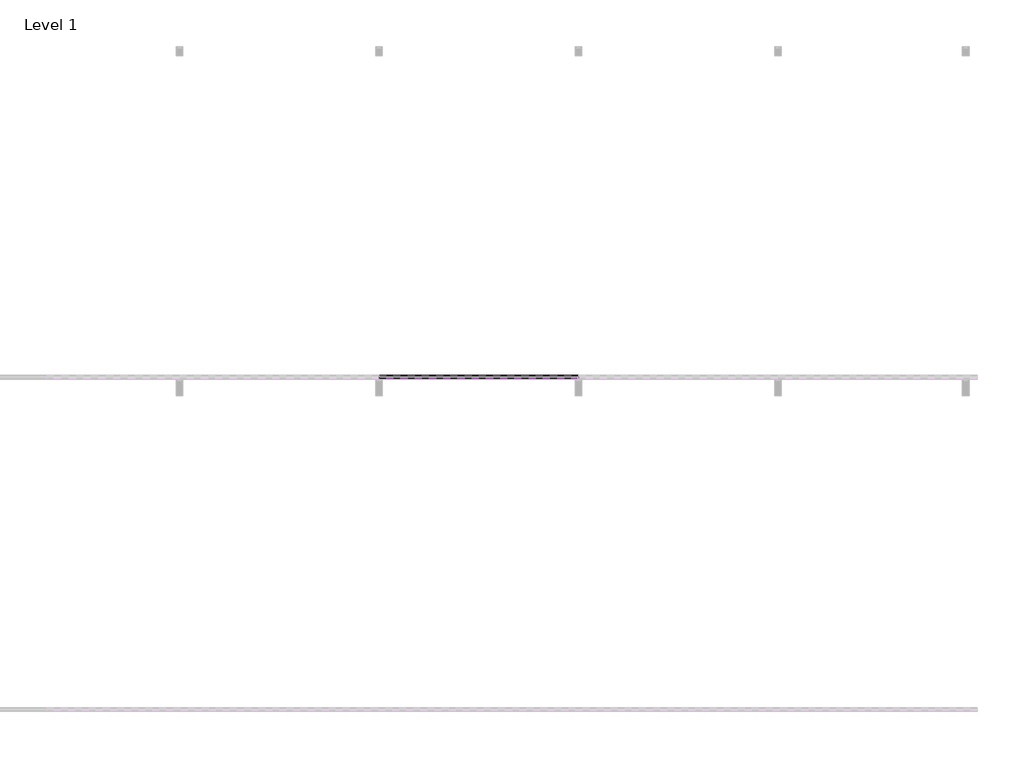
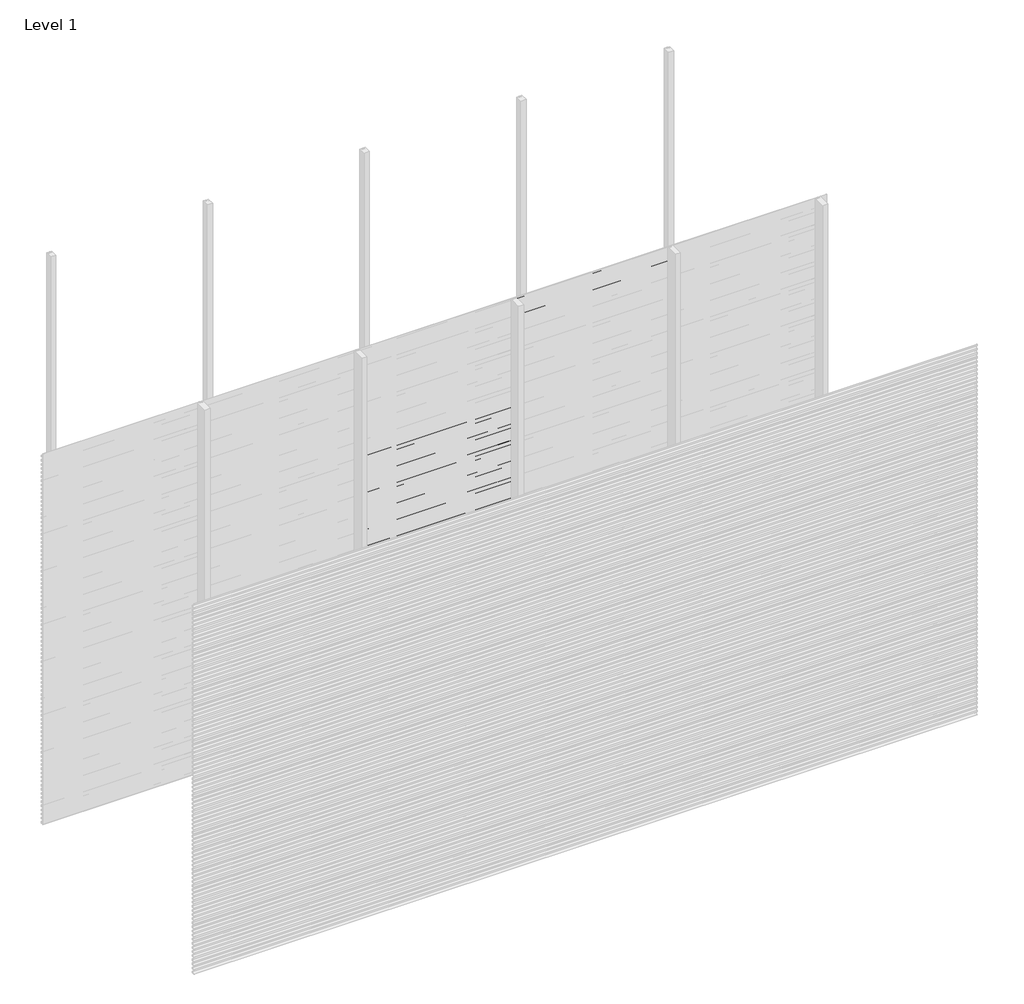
# One storey, part 30 of 77: 72 proxies.
"""IFC4 building model written with IfcOpenShell, lengths in millimetres."""

from ifc_helpers import new_model, si_unit, frame, origin, place, context, project, spatial, polyline, outline, extrude, element, save

model = new_model("IFC4")

# Units and contexts
model_context = context("Model", 3, world=origin())
ifc_project = project(units=[si_unit("LENGTHUNIT", "METRE", prefix="MILLI")], contexts=[model_context])

# Site, building, storey
site = spatial("IfcSite", under=ifc_project)
building = spatial("IfcBuilding", under=site)
storey = spatial("IfcBuildingStorey", under=building, Name="Level 1", Elevation=0.0)

# Proxies
placement = place(None, origin())
element("IfcBuildingElementProxy", 1, Name="Wall Sweeps", at=placement, inside=storey, context=model_context, shape_type="SweptSolid", body=[
    extrude(outline(polyline([(-35978.6, 2206.6359887), (-35998.0, 2217.8366691), (-35998.0, 2231.1), (-35997.0, 2231.1), (-35997.0, 2218.4191057), (-35977.6, 2207.2185105), (-35977.6, 2193.6185105), (-35978.6, 2195.1953129), (-35978.6, 2201.0032062), (-35995.9773817, 2192.9), (-35996.4, 2193.8063078), (-35978.6, 2202.1065841), (-35978.6, 2206.6359887)])), frame((2400.0, 0.0, 0.0), z_axis=(1.0, 0.0, 0.0), x_axis=(0.0, 1.0, 0.0)), (0.0, 0.0, 1.0), 1200.0),
])
element("IfcBuildingElementProxy", 2, Name="Wall Sweeps", at=placement, inside=storey, context=model_context, shape_type="SweptSolid", body=[
    extrude(outline(polyline([(-35978.6, 2173.3359887), (-35998.0, 2184.5366691), (-35998.0, 2197.8), (-35997.0, 2197.8), (-35997.0, 2185.1191057), (-35977.6, 2173.9185105), (-35977.6, 2160.3185105), (-35978.6, 2161.8953129), (-35978.6, 2167.7032062), (-35995.9773817, 2159.6), (-35996.4, 2160.5063078), (-35978.6, 2168.8065841), (-35978.6, 2173.3359887)])), frame((2400.0, 0.0, 0.0), z_axis=(1.0, 0.0, 0.0), x_axis=(0.0, 1.0, 0.0)), (0.0, 0.0, 1.0), 1200.0),
])
element("IfcBuildingElementProxy", 3, Name="Wall Sweeps", at=placement, inside=storey, context=model_context, shape_type="SweptSolid", body=[
    extrude(outline(polyline([(-35978.6, 2140.0359887), (-35998.0, 2151.2366691), (-35998.0, 2164.5), (-35997.0, 2164.5), (-35997.0, 2151.8191057), (-35977.6, 2140.6185105), (-35977.6, 2127.0185105), (-35978.6, 2128.5953129), (-35978.6, 2134.4032062), (-35995.9773817, 2126.3), (-35996.4, 2127.2063078), (-35978.6, 2135.5065841), (-35978.6, 2140.0359887)])), frame((2400.0, 0.0, 0.0), z_axis=(1.0, 0.0, 0.0), x_axis=(0.0, 1.0, 0.0)), (0.0, 0.0, 1.0), 1200.0),
])
element("IfcBuildingElementProxy", 4, Name="Wall Sweeps", at=placement, inside=storey, context=model_context, shape_type="SweptSolid", body=[
    extrude(outline(polyline([(-35978.6, 2106.7359887), (-35998.0, 2117.9366691), (-35998.0, 2131.2), (-35997.0, 2131.2), (-35997.0, 2118.5191057), (-35977.6, 2107.3185105), (-35977.6, 2093.7185105), (-35978.6, 2095.2953129), (-35978.6, 2101.1032062), (-35995.9773817, 2093.0), (-35996.4, 2093.9063078), (-35978.6, 2102.2065841), (-35978.6, 2106.7359887)])), frame((2400.0, 0.0, 0.0), z_axis=(1.0, 0.0, 0.0), x_axis=(0.0, 1.0, 0.0)), (0.0, 0.0, 1.0), 1200.0),
])
element("IfcBuildingElementProxy", 5, Name="Wall Sweeps", at=placement, inside=storey, context=model_context, shape_type="SweptSolid", body=[
    extrude(outline(polyline([(-35978.6, 2073.4359887), (-35998.0, 2084.6366691), (-35998.0, 2097.9), (-35997.0, 2097.9), (-35997.0, 2085.2191057), (-35977.6, 2074.0185105), (-35977.6, 2060.4185105), (-35978.6, 2061.9953129), (-35978.6, 2067.8032062), (-35995.9773817, 2059.7), (-35996.4, 2060.6063078), (-35978.6, 2068.9065841), (-35978.6, 2073.4359887)])), frame((2400.0, 0.0, 0.0), z_axis=(1.0, 0.0, 0.0), x_axis=(0.0, 1.0, 0.0)), (0.0, 0.0, 1.0), 1200.0),
])
element("IfcBuildingElementProxy", 6, Name="Wall Sweeps", at=placement, inside=storey, context=model_context, shape_type="SweptSolid", body=[
    extrude(outline(polyline([(-35978.6, 2040.1359887), (-35998.0, 2051.3366691), (-35998.0, 2064.6), (-35997.0, 2064.6), (-35997.0, 2051.9191057), (-35977.6, 2040.7185105), (-35977.6, 2027.1185105), (-35978.6, 2028.6953129), (-35978.6, 2034.5032062), (-35995.9773817, 2026.4), (-35996.4, 2027.3063078), (-35978.6, 2035.6065841), (-35978.6, 2040.1359887)])), frame((2400.0, 0.0, 0.0), z_axis=(1.0, 0.0, 0.0), x_axis=(0.0, 1.0, 0.0)), (0.0, 0.0, 1.0), 1200.0),
])
element("IfcBuildingElementProxy", 7, Name="Wall Sweeps", at=placement, inside=storey, context=model_context, shape_type="SweptSolid", body=[
    extrude(outline(polyline([(-35978.6, 2006.8359887), (-35998.0, 2018.0366691), (-35998.0, 2031.3), (-35997.0, 2031.3), (-35997.0, 2018.6191057), (-35977.6, 2007.4185105), (-35977.6, 1993.8185105), (-35978.6, 1995.3953129), (-35978.6, 2001.2032062), (-35995.9773817, 1993.1), (-35996.4, 1994.0063078), (-35978.6, 2002.3065841), (-35978.6, 2006.8359887)])), frame((2400.0, 0.0, 0.0), z_axis=(1.0, 0.0, 0.0), x_axis=(0.0, 1.0, 0.0)), (0.0, 0.0, 1.0), 1200.0),
])
element("IfcBuildingElementProxy", 8, Name="Wall Sweeps", at=placement, inside=storey, context=model_context, shape_type="SweptSolid", body=[
    extrude(outline(polyline([(-35978.6, 1973.5359887), (-35998.0, 1984.7366691), (-35998.0, 1998.0), (-35997.0, 1998.0), (-35997.0, 1985.3191057), (-35977.6, 1974.1185105), (-35977.6, 1960.5185105), (-35978.6, 1962.0953129), (-35978.6, 1967.9032062), (-35995.9773817, 1959.8), (-35996.4, 1960.7063078), (-35978.6, 1969.0065841), (-35978.6, 1973.5359887)])), frame((2400.0, 0.0, 0.0), z_axis=(1.0, 0.0, 0.0), x_axis=(0.0, 1.0, 0.0)), (0.0, 0.0, 1.0), 1200.0),
])
element("IfcBuildingElementProxy", 9, Name="Wall Sweeps", at=placement, inside=storey, context=model_context, shape_type="SweptSolid", body=[
    extrude(outline(polyline([(-35978.6, 1940.2359887), (-35998.0, 1951.4366691), (-35998.0, 1964.7), (-35997.0, 1964.7), (-35997.0, 1952.0191057), (-35977.6, 1940.8185105), (-35977.6, 1927.2185105), (-35978.6, 1928.7953129), (-35978.6, 1934.6032062), (-35995.9773817, 1926.5), (-35996.4, 1927.4063078), (-35978.6, 1935.7065841), (-35978.6, 1940.2359887)])), frame((2400.0, 0.0, 0.0), z_axis=(1.0, 0.0, 0.0), x_axis=(0.0, 1.0, 0.0)), (0.0, 0.0, 1.0), 1200.0),
])
element("IfcBuildingElementProxy", 10, Name="Wall Sweeps", at=placement, inside=storey, context=model_context, shape_type="SweptSolid", body=[
    extrude(outline(polyline([(-35978.6, 1906.9359887), (-35998.0, 1918.1366691), (-35998.0, 1931.4), (-35997.0, 1931.4), (-35997.0, 1918.7191057), (-35977.6, 1907.5185105), (-35977.6, 1893.9185105), (-35978.6, 1895.4953129), (-35978.6, 1901.3032062), (-35995.9773817, 1893.2), (-35996.4, 1894.1063078), (-35978.6, 1902.4065841), (-35978.6, 1906.9359887)])), frame((2400.0, 0.0, 0.0), z_axis=(1.0, 0.0, 0.0), x_axis=(0.0, 1.0, 0.0)), (0.0, 0.0, 1.0), 1200.0),
])
element("IfcBuildingElementProxy", 11, Name="Wall Sweeps", at=placement, inside=storey, context=model_context, shape_type="SweptSolid", body=[
    extrude(outline(polyline([(-35978.6, 1873.6359887), (-35998.0, 1884.8366691), (-35998.0, 1898.1), (-35997.0, 1898.1), (-35997.0, 1885.4191057), (-35977.6, 1874.2185105), (-35977.6, 1860.6185105), (-35978.6, 1862.1953129), (-35978.6, 1868.0032062), (-35995.9773817, 1859.9), (-35996.4, 1860.8063078), (-35978.6, 1869.1065841), (-35978.6, 1873.6359887)])), frame((2400.0, 0.0, 0.0), z_axis=(1.0, 0.0, 0.0), x_axis=(0.0, 1.0, 0.0)), (0.0, 0.0, 1.0), 1200.0),
])
element("IfcBuildingElementProxy", 12, Name="Wall Sweeps", at=placement, inside=storey, context=model_context, shape_type="SweptSolid", body=[
    extrude(outline(polyline([(-35978.6, 1840.3359887), (-35998.0, 1851.5366691), (-35998.0, 1864.8), (-35997.0, 1864.8), (-35997.0, 1852.1191057), (-35977.6, 1840.9185105), (-35977.6, 1827.3185105), (-35978.6, 1828.8953129), (-35978.6, 1834.7032062), (-35995.9773817, 1826.6), (-35996.4, 1827.5063078), (-35978.6, 1835.8065841), (-35978.6, 1840.3359887)])), frame((2400.0, 0.0, 0.0), z_axis=(1.0, 0.0, 0.0), x_axis=(0.0, 1.0, 0.0)), (0.0, 0.0, 1.0), 1200.0),
])
element("IfcBuildingElementProxy", 13, Name="Wall Sweeps", at=placement, inside=storey, context=model_context, shape_type="SweptSolid", body=[
    extrude(outline(polyline([(-35978.6, 1807.0359887), (-35998.0, 1818.2366691), (-35998.0, 1831.5), (-35997.0, 1831.5), (-35997.0, 1818.8191057), (-35977.6, 1807.6185105), (-35977.6, 1794.0185105), (-35978.6, 1795.5953129), (-35978.6, 1801.4032062), (-35995.9773817, 1793.3), (-35996.4, 1794.2063078), (-35978.6, 1802.5065841), (-35978.6, 1807.0359887)])), frame((2400.0, 0.0, 0.0), z_axis=(1.0, 0.0, 0.0), x_axis=(0.0, 1.0, 0.0)), (0.0, 0.0, 1.0), 1200.0),
])
element("IfcBuildingElementProxy", 14, Name="Wall Sweeps", at=placement, inside=storey, context=model_context, shape_type="SweptSolid", body=[
    extrude(outline(polyline([(-35978.6, 1773.7359887), (-35998.0, 1784.9366691), (-35998.0, 1798.2), (-35997.0, 1798.2), (-35997.0, 1785.5191057), (-35977.6, 1774.3185105), (-35977.6, 1760.7185105), (-35978.6, 1762.2953129), (-35978.6, 1768.1032062), (-35995.9773817, 1760.0), (-35996.4, 1760.9063078), (-35978.6, 1769.2065841), (-35978.6, 1773.7359887)])), frame((2400.0, 0.0, 0.0), z_axis=(1.0, 0.0, 0.0), x_axis=(0.0, 1.0, 0.0)), (0.0, 0.0, 1.0), 1200.0),
])
element("IfcBuildingElementProxy", 15, Name="Wall Sweeps", at=placement, inside=storey, context=model_context, shape_type="SweptSolid", body=[
    extrude(outline(polyline([(-35978.6, 1740.4359887), (-35998.0, 1751.6366691), (-35998.0, 1764.9), (-35997.0, 1764.9), (-35997.0, 1752.2191057), (-35977.6, 1741.0185105), (-35977.6, 1727.4185105), (-35978.6, 1728.9953129), (-35978.6, 1734.8032062), (-35995.9773817, 1726.7), (-35996.4, 1727.6063078), (-35978.6, 1735.9065841), (-35978.6, 1740.4359887)])), frame((2400.0, 0.0, 0.0), z_axis=(1.0, 0.0, 0.0), x_axis=(0.0, 1.0, 0.0)), (0.0, 0.0, 1.0), 1200.0),
])
element("IfcBuildingElementProxy", 16, Name="Wall Sweeps", at=placement, inside=storey, context=model_context, shape_type="SweptSolid", body=[
    extrude(outline(polyline([(-35978.6, 1707.1359887), (-35998.0, 1718.3366691), (-35998.0, 1731.6), (-35997.0, 1731.6), (-35997.0, 1718.9191057), (-35977.6, 1707.7185105), (-35977.6, 1694.1185105), (-35978.6, 1695.6953129), (-35978.6, 1701.5032062), (-35995.9773817, 1693.4), (-35996.4, 1694.3063078), (-35978.6, 1702.6065841), (-35978.6, 1707.1359887)])), frame((2400.0, 0.0, 0.0), z_axis=(1.0, 0.0, 0.0), x_axis=(0.0, 1.0, 0.0)), (0.0, 0.0, 1.0), 1200.0),
])
element("IfcBuildingElementProxy", 17, Name="Wall Sweeps", at=placement, inside=storey, context=model_context, shape_type="SweptSolid", body=[
    extrude(outline(polyline([(-35978.6, 1673.8359887), (-35998.0, 1685.0366691), (-35998.0, 1698.3), (-35997.0, 1698.3), (-35997.0, 1685.6191057), (-35977.6, 1674.4185105), (-35977.6, 1660.8185105), (-35978.6, 1662.3953129), (-35978.6, 1668.2032062), (-35995.9773817, 1660.1), (-35996.4, 1661.0063078), (-35978.6, 1669.3065841), (-35978.6, 1673.8359887)])), frame((2400.0, 0.0, 0.0), z_axis=(1.0, 0.0, 0.0), x_axis=(0.0, 1.0, 0.0)), (0.0, 0.0, 1.0), 1200.0),
])
element("IfcBuildingElementProxy", 18, Name="Wall Sweeps", at=placement, inside=storey, context=model_context, shape_type="SweptSolid", body=[
    extrude(outline(polyline([(-35978.6, 1640.5359887), (-35998.0, 1651.7366691), (-35998.0, 1665.0), (-35997.0, 1665.0), (-35997.0, 1652.3191057), (-35977.6, 1641.1185105), (-35977.6, 1627.5185105), (-35978.6, 1629.0953129), (-35978.6, 1634.9032062), (-35995.9773817, 1626.8), (-35996.4, 1627.7063078), (-35978.6, 1636.0065841), (-35978.6, 1640.5359887)])), frame((2400.0, 0.0, 0.0), z_axis=(1.0, 0.0, 0.0), x_axis=(0.0, 1.0, 0.0)), (0.0, 0.0, 1.0), 1200.0),
])
element("IfcBuildingElementProxy", 19, Name="Wall Sweeps", at=placement, inside=storey, context=model_context, shape_type="SweptSolid", body=[
    extrude(outline(polyline([(-35978.6, 1607.2359887), (-35998.0, 1618.4366691), (-35998.0, 1631.7), (-35997.0, 1631.7), (-35997.0, 1619.0191057), (-35977.6, 1607.8185105), (-35977.6, 1594.2185105), (-35978.6, 1595.7953129), (-35978.6, 1601.6032062), (-35995.9773817, 1593.5), (-35996.4, 1594.4063078), (-35978.6, 1602.7065841), (-35978.6, 1607.2359887)])), frame((2400.0, 0.0, 0.0), z_axis=(1.0, 0.0, 0.0), x_axis=(0.0, 1.0, 0.0)), (0.0, 0.0, 1.0), 1200.0),
])
element("IfcBuildingElementProxy", 20, Name="Wall Sweeps", at=placement, inside=storey, context=model_context, shape_type="SweptSolid", body=[
    extrude(outline(polyline([(-35978.6, 1573.9359887), (-35998.0, 1585.1366691), (-35998.0, 1598.4), (-35997.0, 1598.4), (-35997.0, 1585.7191057), (-35977.6, 1574.5185105), (-35977.6, 1560.9185105), (-35978.6, 1562.4953129), (-35978.6, 1568.3032062), (-35995.9773817, 1560.2), (-35996.4, 1561.1063078), (-35978.6, 1569.4065841), (-35978.6, 1573.9359887)])), frame((2400.0, 0.0, 0.0), z_axis=(1.0, 0.0, 0.0), x_axis=(0.0, 1.0, 0.0)), (0.0, 0.0, 1.0), 1200.0),
])
element("IfcBuildingElementProxy", 21, Name="Wall Sweeps", at=placement, inside=storey, context=model_context, shape_type="SweptSolid", body=[
    extrude(outline(polyline([(-35978.6, 1540.6359887), (-35998.0, 1551.8366691), (-35998.0, 1565.1), (-35997.0, 1565.1), (-35997.0, 1552.4191057), (-35977.6, 1541.2185105), (-35977.6, 1527.6185105), (-35978.6, 1529.1953129), (-35978.6, 1535.0032062), (-35995.9773817, 1526.9), (-35996.4, 1527.8063078), (-35978.6, 1536.1065841), (-35978.6, 1540.6359887)])), frame((2400.0, 0.0, 0.0), z_axis=(1.0, 0.0, 0.0), x_axis=(0.0, 1.0, 0.0)), (0.0, 0.0, 1.0), 1200.0),
])
element("IfcBuildingElementProxy", 22, Name="Wall Sweeps", at=placement, inside=storey, context=model_context, shape_type="SweptSolid", body=[
    extrude(outline(polyline([(-35978.6, 1507.3359887), (-35998.0, 1518.5366691), (-35998.0, 1531.8), (-35997.0, 1531.8), (-35997.0, 1519.1191057), (-35977.6, 1507.9185105), (-35977.6, 1494.3185105), (-35978.6, 1495.8953129), (-35978.6, 1501.7032062), (-35995.9773817, 1493.6), (-35996.4, 1494.5063078), (-35978.6, 1502.8065841), (-35978.6, 1507.3359887)])), frame((2400.0, 0.0, 0.0), z_axis=(1.0, 0.0, 0.0), x_axis=(0.0, 1.0, 0.0)), (0.0, 0.0, 1.0), 1200.0),
])
element("IfcBuildingElementProxy", 23, Name="Wall Sweeps", at=placement, inside=storey, context=model_context, shape_type="SweptSolid", body=[
    extrude(outline(polyline([(-35978.6, 1474.0359887), (-35998.0, 1485.2366691), (-35998.0, 1498.5), (-35997.0, 1498.5), (-35997.0, 1485.8191057), (-35977.6, 1474.6185105), (-35977.6, 1461.0185105), (-35978.6, 1462.5953129), (-35978.6, 1468.4032062), (-35995.9773817, 1460.3), (-35996.4, 1461.2063078), (-35978.6, 1469.5065841), (-35978.6, 1474.0359887)])), frame((2400.0, 0.0, 0.0), z_axis=(1.0, 0.0, 0.0), x_axis=(0.0, 1.0, 0.0)), (0.0, 0.0, 1.0), 1200.0),
])
element("IfcBuildingElementProxy", 24, Name="Wall Sweeps", at=placement, inside=storey, context=model_context, shape_type="SweptSolid", body=[
    extrude(outline(polyline([(-35978.6, 1440.7359887), (-35998.0, 1451.9366691), (-35998.0, 1465.2), (-35997.0, 1465.2), (-35997.0, 1452.5191057), (-35977.6, 1441.3185105), (-35977.6, 1427.7185105), (-35978.6, 1429.2953129), (-35978.6, 1435.1032062), (-35995.9773817, 1427.0), (-35996.4, 1427.9063078), (-35978.6, 1436.2065841), (-35978.6, 1440.7359887)])), frame((2400.0, 0.0, 0.0), z_axis=(1.0, 0.0, 0.0), x_axis=(0.0, 1.0, 0.0)), (0.0, 0.0, 1.0), 1200.0),
])
element("IfcBuildingElementProxy", 25, Name="Wall Sweeps", at=placement, inside=storey, context=model_context, shape_type="SweptSolid", body=[
    extrude(outline(polyline([(-35978.6, 1407.4359887), (-35998.0, 1418.6366691), (-35998.0, 1431.9), (-35997.0, 1431.9), (-35997.0, 1419.2191057), (-35977.6, 1408.0185105), (-35977.6, 1394.4185105), (-35978.6, 1395.9953129), (-35978.6, 1401.8032062), (-35995.9773817, 1393.7), (-35996.4, 1394.6063078), (-35978.6, 1402.9065841), (-35978.6, 1407.4359887)])), frame((2400.0, 0.0, 0.0), z_axis=(1.0, 0.0, 0.0), x_axis=(0.0, 1.0, 0.0)), (0.0, 0.0, 1.0), 1200.0),
])
element("IfcBuildingElementProxy", 26, Name="Wall Sweeps", at=placement, inside=storey, context=model_context, shape_type="SweptSolid", body=[
    extrude(outline(polyline([(-35978.6, 1374.1359887), (-35998.0, 1385.3366691), (-35998.0, 1398.6), (-35997.0, 1398.6), (-35997.0, 1385.9191057), (-35977.6, 1374.7185105), (-35977.6, 1361.1185105), (-35978.6, 1362.6953129), (-35978.6, 1368.5032062), (-35995.9773817, 1360.4), (-35996.4, 1361.3063078), (-35978.6, 1369.6065841), (-35978.6, 1374.1359887)])), frame((2400.0, 0.0, 0.0), z_axis=(1.0, 0.0, 0.0), x_axis=(0.0, 1.0, 0.0)), (0.0, 0.0, 1.0), 1200.0),
])
element("IfcBuildingElementProxy", 27, Name="Wall Sweeps", at=placement, inside=storey, context=model_context, shape_type="SweptSolid", body=[
    extrude(outline(polyline([(-35978.6, 1340.8359887), (-35998.0, 1352.0366691), (-35998.0, 1365.3), (-35997.0, 1365.3), (-35997.0, 1352.6191057), (-35977.6, 1341.4185105), (-35977.6, 1327.8185105), (-35978.6, 1329.3953129), (-35978.6, 1335.2032062), (-35995.9773817, 1327.1), (-35996.4, 1328.0063078), (-35978.6, 1336.3065841), (-35978.6, 1340.8359887)])), frame((2400.0, 0.0, 0.0), z_axis=(1.0, 0.0, 0.0), x_axis=(0.0, 1.0, 0.0)), (0.0, 0.0, 1.0), 1200.0),
])
element("IfcBuildingElementProxy", 28, Name="Wall Sweeps", at=placement, inside=storey, context=model_context, shape_type="SweptSolid", body=[
    extrude(outline(polyline([(-35978.6, 1307.5359887), (-35998.0, 1318.7366691), (-35998.0, 1332.0), (-35997.0, 1332.0), (-35997.0, 1319.3191057), (-35977.6, 1308.1185105), (-35977.6, 1294.5185105), (-35978.6, 1296.0953129), (-35978.6, 1301.9032062), (-35995.9773817, 1293.8), (-35996.4, 1294.7063078), (-35978.6, 1303.0065841), (-35978.6, 1307.5359887)])), frame((2400.0, 0.0, 0.0), z_axis=(1.0, 0.0, 0.0), x_axis=(0.0, 1.0, 0.0)), (0.0, 0.0, 1.0), 1200.0),
])
element("IfcBuildingElementProxy", 29, Name="Wall Sweeps", at=placement, inside=storey, context=model_context, shape_type="SweptSolid", body=[
    extrude(outline(polyline([(-35978.6, 1274.2359887), (-35998.0, 1285.4366691), (-35998.0, 1298.7), (-35997.0, 1298.7), (-35997.0, 1286.0191057), (-35977.6, 1274.8185105), (-35977.6, 1261.2185105), (-35978.6, 1262.7953129), (-35978.6, 1268.6032062), (-35995.9773817, 1260.5), (-35996.4, 1261.4063078), (-35978.6, 1269.7065841), (-35978.6, 1274.2359887)])), frame((2400.0, 0.0, 0.0), z_axis=(1.0, 0.0, 0.0), x_axis=(0.0, 1.0, 0.0)), (0.0, 0.0, 1.0), 1200.0),
])
element("IfcBuildingElementProxy", 30, Name="Wall Sweeps", at=placement, inside=storey, context=model_context, shape_type="SweptSolid", body=[
    extrude(outline(polyline([(-35978.6, 1240.9359887), (-35998.0, 1252.1366691), (-35998.0, 1265.4), (-35997.0, 1265.4), (-35997.0, 1252.7191057), (-35977.6, 1241.5185105), (-35977.6, 1227.9185105), (-35978.6, 1229.4953129), (-35978.6, 1235.3032062), (-35995.9773817, 1227.2), (-35996.4, 1228.1063078), (-35978.6, 1236.4065841), (-35978.6, 1240.9359887)])), frame((2400.0, 0.0, 0.0), z_axis=(1.0, 0.0, 0.0), x_axis=(0.0, 1.0, 0.0)), (0.0, 0.0, 1.0), 1200.0),
])
element("IfcBuildingElementProxy", 31, Name="Wall Sweeps", at=placement, inside=storey, context=model_context, shape_type="SweptSolid", body=[
    extrude(outline(polyline([(-35978.6, 1207.6359887), (-35998.0, 1218.8366691), (-35998.0, 1232.1), (-35997.0, 1232.1), (-35997.0, 1219.4191057), (-35977.6, 1208.2185105), (-35977.6, 1194.6185105), (-35978.6, 1196.1953129), (-35978.6, 1202.0032062), (-35995.9773817, 1193.9), (-35996.4, 1194.8063078), (-35978.6, 1203.1065841), (-35978.6, 1207.6359887)])), frame((2400.0, 0.0, 0.0), z_axis=(1.0, 0.0, 0.0), x_axis=(0.0, 1.0, 0.0)), (0.0, 0.0, 1.0), 1200.0),
])
element("IfcBuildingElementProxy", 32, Name="Wall Sweeps", at=placement, inside=storey, context=model_context, shape_type="SweptSolid", body=[
    extrude(outline(polyline([(-35978.6, 1174.3359887), (-35998.0, 1185.5366691), (-35998.0, 1198.8), (-35997.0, 1198.8), (-35997.0, 1186.1191057), (-35977.6, 1174.9185105), (-35977.6, 1161.3185105), (-35978.6, 1162.8953129), (-35978.6, 1168.7032062), (-35995.9773817, 1160.6), (-35996.4, 1161.5063078), (-35978.6, 1169.8065841), (-35978.6, 1174.3359887)])), frame((2400.0, 0.0, 0.0), z_axis=(1.0, 0.0, 0.0), x_axis=(0.0, 1.0, 0.0)), (0.0, 0.0, 1.0), 1200.0),
])
element("IfcBuildingElementProxy", 33, Name="Wall Sweeps", at=placement, inside=storey, context=model_context, shape_type="SweptSolid", body=[
    extrude(outline(polyline([(-35978.6, 1141.0359887), (-35998.0, 1152.2366691), (-35998.0, 1165.5), (-35997.0, 1165.5), (-35997.0, 1152.8191057), (-35977.6, 1141.6185105), (-35977.6, 1128.0185105), (-35978.6, 1129.5953129), (-35978.6, 1135.4032062), (-35995.9773817, 1127.3), (-35996.4, 1128.2063078), (-35978.6, 1136.5065841), (-35978.6, 1141.0359887)])), frame((2400.0, 0.0, 0.0), z_axis=(1.0, 0.0, 0.0), x_axis=(0.0, 1.0, 0.0)), (0.0, 0.0, 1.0), 1200.0),
])
element("IfcBuildingElementProxy", 34, Name="Wall Sweeps", at=placement, inside=storey, context=model_context, shape_type="SweptSolid", body=[
    extrude(outline(polyline([(-35978.6, 1107.7359887), (-35998.0, 1118.9366691), (-35998.0, 1132.2), (-35997.0, 1132.2), (-35997.0, 1119.5191057), (-35977.6, 1108.3185105), (-35977.6, 1094.7185105), (-35978.6, 1096.2953129), (-35978.6, 1102.1032062), (-35995.9773817, 1094.0), (-35996.4, 1094.9063078), (-35978.6, 1103.2065841), (-35978.6, 1107.7359887)])), frame((2400.0, 0.0, 0.0), z_axis=(1.0, 0.0, 0.0), x_axis=(0.0, 1.0, 0.0)), (0.0, 0.0, 1.0), 1200.0),
])
element("IfcBuildingElementProxy", 35, Name="Wall Sweeps", at=placement, inside=storey, context=model_context, shape_type="SweptSolid", body=[
    extrude(outline(polyline([(-35978.6, 1074.4359887), (-35998.0, 1085.6366691), (-35998.0, 1098.9), (-35997.0, 1098.9), (-35997.0, 1086.2191057), (-35977.6, 1075.0185105), (-35977.6, 1061.4185105), (-35978.6, 1062.9953129), (-35978.6, 1068.8032062), (-35995.9773817, 1060.7), (-35996.4, 1061.6063078), (-35978.6, 1069.9065841), (-35978.6, 1074.4359887)])), frame((2400.0, 0.0, 0.0), z_axis=(1.0, 0.0, 0.0), x_axis=(0.0, 1.0, 0.0)), (0.0, 0.0, 1.0), 1200.0),
])
element("IfcBuildingElementProxy", 36, Name="Wall Sweeps", at=placement, inside=storey, context=model_context, shape_type="SweptSolid", body=[
    extrude(outline(polyline([(-35978.6, 1041.1359887), (-35998.0, 1052.3366691), (-35998.0, 1065.6), (-35997.0, 1065.6), (-35997.0, 1052.9191057), (-35977.6, 1041.7185105), (-35977.6, 1028.1185105), (-35978.6, 1029.6953129), (-35978.6, 1035.5032062), (-35995.9773817, 1027.4), (-35996.4, 1028.3063078), (-35978.6, 1036.6065841), (-35978.6, 1041.1359887)])), frame((2400.0, 0.0, 0.0), z_axis=(1.0, 0.0, 0.0), x_axis=(0.0, 1.0, 0.0)), (0.0, 0.0, 1.0), 1200.0),
])
element("IfcBuildingElementProxy", 37, Name="Wall Sweeps", at=placement, inside=storey, context=model_context, shape_type="SweptSolid", body=[
    extrude(outline(polyline([(-35978.6, 1007.8359887), (-35998.0, 1019.0366691), (-35998.0, 1032.3), (-35997.0, 1032.3), (-35997.0, 1019.6191057), (-35977.6, 1008.4185105), (-35977.6, 994.8185105), (-35978.6, 996.3953129), (-35978.6, 1002.2032062), (-35995.9773817, 994.1), (-35996.4, 995.0063078), (-35978.6, 1003.3065841), (-35978.6, 1007.8359887)])), frame((2400.0, 0.0, 0.0), z_axis=(1.0, 0.0, 0.0), x_axis=(0.0, 1.0, 0.0)), (0.0, 0.0, 1.0), 1200.0),
])
element("IfcBuildingElementProxy", 38, Name="Wall Sweeps", at=placement, inside=storey, context=model_context, shape_type="SweptSolid", body=[
    extrude(outline(polyline([(-35978.6, 974.5359887), (-35998.0, 985.7366691), (-35998.0, 999.0), (-35997.0, 999.0), (-35997.0, 986.3191057), (-35977.6, 975.1185105), (-35977.6, 961.5185105), (-35978.6, 963.0953129), (-35978.6, 968.9032062), (-35995.9773817, 960.8), (-35996.4, 961.7063078), (-35978.6, 970.0065841), (-35978.6, 974.5359887)])), frame((2400.0, 0.0, 0.0), z_axis=(1.0, 0.0, 0.0), x_axis=(0.0, 1.0, 0.0)), (0.0, 0.0, 1.0), 1200.0),
])
element("IfcBuildingElementProxy", 39, Name="Wall Sweeps", at=placement, inside=storey, context=model_context, shape_type="SweptSolid", body=[
    extrude(outline(polyline([(-35978.6, 941.2359887), (-35998.0, 952.4366691), (-35998.0, 965.7), (-35997.0, 965.7), (-35997.0, 953.0191057), (-35977.6, 941.8185105), (-35977.6, 928.2185105), (-35978.6, 929.7953129), (-35978.6, 935.6032062), (-35995.9773817, 927.5), (-35996.4, 928.4063078), (-35978.6, 936.7065841), (-35978.6, 941.2359887)])), frame((2400.0, 0.0, 0.0), z_axis=(1.0, 0.0, 0.0), x_axis=(0.0, 1.0, 0.0)), (0.0, 0.0, 1.0), 1200.0),
])
element("IfcBuildingElementProxy", 40, Name="Wall Sweeps", at=placement, inside=storey, context=model_context, shape_type="SweptSolid", body=[
    extrude(outline(polyline([(-35978.6, 907.9359887), (-35998.0, 919.1366691), (-35998.0, 932.4), (-35997.0, 932.4), (-35997.0, 919.7191057), (-35977.6, 908.5185105), (-35977.6, 894.9185105), (-35978.6, 896.4953129), (-35978.6, 902.3032062), (-35995.9773817, 894.2), (-35996.4, 895.1063078), (-35978.6, 903.4065841), (-35978.6, 907.9359887)])), frame((2400.0, 0.0, 0.0), z_axis=(1.0, 0.0, 0.0), x_axis=(0.0, 1.0, 0.0)), (0.0, 0.0, 1.0), 1200.0),
])
element("IfcBuildingElementProxy", 41, Name="Wall Sweeps", at=placement, inside=storey, context=model_context, shape_type="SweptSolid", body=[
    extrude(outline(polyline([(-35978.6, 874.6359887), (-35998.0, 885.8366691), (-35998.0, 899.1), (-35997.0, 899.1), (-35997.0, 886.4191057), (-35977.6, 875.2185105), (-35977.6, 861.6185105), (-35978.6, 863.1953129), (-35978.6, 869.0032062), (-35995.9773817, 860.9), (-35996.4, 861.8063078), (-35978.6, 870.1065841), (-35978.6, 874.6359887)])), frame((2400.0, 0.0, 0.0), z_axis=(1.0, 0.0, 0.0), x_axis=(0.0, 1.0, 0.0)), (0.0, 0.0, 1.0), 1200.0),
])
element("IfcBuildingElementProxy", 42, Name="Wall Sweeps", at=placement, inside=storey, context=model_context, shape_type="SweptSolid", body=[
    extrude(outline(polyline([(-35978.6, 841.3359887), (-35998.0, 852.5366691), (-35998.0, 865.8), (-35997.0, 865.8), (-35997.0, 853.1191057), (-35977.6, 841.9185105), (-35977.6, 828.3185105), (-35978.6, 829.8953129), (-35978.6, 835.7032062), (-35995.9773817, 827.6), (-35996.4, 828.5063078), (-35978.6, 836.8065841), (-35978.6, 841.3359887)])), frame((2400.0, 0.0, 0.0), z_axis=(1.0, 0.0, 0.0), x_axis=(0.0, 1.0, 0.0)), (0.0, 0.0, 1.0), 1200.0),
])
element("IfcBuildingElementProxy", 43, Name="Wall Sweeps", at=placement, inside=storey, context=model_context, shape_type="SweptSolid", body=[
    extrude(outline(polyline([(-35978.6, 808.0359887), (-35998.0, 819.2366691), (-35998.0, 832.5), (-35997.0, 832.5), (-35997.0, 819.8191057), (-35977.6, 808.6185105), (-35977.6, 795.0185105), (-35978.6, 796.5953129), (-35978.6, 802.4032062), (-35995.9773817, 794.3), (-35996.4, 795.2063078), (-35978.6, 803.5065841), (-35978.6, 808.0359887)])), frame((2400.0, 0.0, 0.0), z_axis=(1.0, 0.0, 0.0), x_axis=(0.0, 1.0, 0.0)), (0.0, 0.0, 1.0), 1200.0),
])
element("IfcBuildingElementProxy", 44, Name="Wall Sweeps", at=placement, inside=storey, context=model_context, shape_type="SweptSolid", body=[
    extrude(outline(polyline([(-35978.6, 774.7359887), (-35998.0, 785.9366691), (-35998.0, 799.2), (-35997.0, 799.2), (-35997.0, 786.5191057), (-35977.6, 775.3185105), (-35977.6, 761.7185105), (-35978.6, 763.2953129), (-35978.6, 769.1032062), (-35995.9773817, 761.0), (-35996.4, 761.9063078), (-35978.6, 770.2065841), (-35978.6, 774.7359887)])), frame((2400.0, 0.0, 0.0), z_axis=(1.0, 0.0, 0.0), x_axis=(0.0, 1.0, 0.0)), (0.0, 0.0, 1.0), 1200.0),
])
element("IfcBuildingElementProxy", 45, Name="Wall Sweeps", at=placement, inside=storey, context=model_context, shape_type="SweptSolid", body=[
    extrude(outline(polyline([(-35978.6, 741.4359887), (-35998.0, 752.6366691), (-35998.0, 765.9), (-35997.0, 765.9), (-35997.0, 753.2191057), (-35977.6, 742.0185105), (-35977.6, 728.4185105), (-35978.6, 729.9953129), (-35978.6, 735.8032062), (-35995.9773817, 727.7), (-35996.4, 728.6063078), (-35978.6, 736.9065841), (-35978.6, 741.4359887)])), frame((2400.0, 0.0, 0.0), z_axis=(1.0, 0.0, 0.0), x_axis=(0.0, 1.0, 0.0)), (0.0, 0.0, 1.0), 1200.0),
])
element("IfcBuildingElementProxy", 46, Name="Wall Sweeps", at=placement, inside=storey, context=model_context, shape_type="SweptSolid", body=[
    extrude(outline(polyline([(-35978.6, 708.1359887), (-35998.0, 719.3366691), (-35998.0, 732.6), (-35997.0, 732.6), (-35997.0, 719.9191057), (-35977.6, 708.7185105), (-35977.6, 695.1185105), (-35978.6, 696.6953129), (-35978.6, 702.5032062), (-35995.9773817, 694.4), (-35996.4, 695.3063078), (-35978.6, 703.6065841), (-35978.6, 708.1359887)])), frame((2400.0, 0.0, 0.0), z_axis=(1.0, 0.0, 0.0), x_axis=(0.0, 1.0, 0.0)), (0.0, 0.0, 1.0), 1200.0),
])
element("IfcBuildingElementProxy", 47, Name="Wall Sweeps", at=placement, inside=storey, context=model_context, shape_type="SweptSolid", body=[
    extrude(outline(polyline([(-35978.6, 674.8359887), (-35998.0, 686.0366691), (-35998.0, 699.3), (-35997.0, 699.3), (-35997.0, 686.6191057), (-35977.6, 675.4185105), (-35977.6, 661.8185105), (-35978.6, 663.3953129), (-35978.6, 669.2032062), (-35995.9773817, 661.1), (-35996.4, 662.0063078), (-35978.6, 670.3065841), (-35978.6, 674.8359887)])), frame((2400.0, 0.0, 0.0), z_axis=(1.0, 0.0, 0.0), x_axis=(0.0, 1.0, 0.0)), (0.0, 0.0, 1.0), 1200.0),
])
element("IfcBuildingElementProxy", 48, Name="Wall Sweeps", at=placement, inside=storey, context=model_context, shape_type="SweptSolid", body=[
    extrude(outline(polyline([(-35978.6, 641.5359887), (-35998.0, 652.7366691), (-35998.0, 666.0), (-35997.0, 666.0), (-35997.0, 653.3191057), (-35977.6, 642.1185105), (-35977.6, 628.5185105), (-35978.6, 630.0953129), (-35978.6, 635.9032062), (-35995.9773817, 627.8), (-35996.4, 628.7063078), (-35978.6, 637.0065841), (-35978.6, 641.5359887)])), frame((2400.0, 0.0, 0.0), z_axis=(1.0, 0.0, 0.0), x_axis=(0.0, 1.0, 0.0)), (0.0, 0.0, 1.0), 1200.0),
])
element("IfcBuildingElementProxy", 49, Name="Wall Sweeps", at=placement, inside=storey, context=model_context, shape_type="SweptSolid", body=[
    extrude(outline(polyline([(-35978.6, 608.2359887), (-35998.0, 619.4366691), (-35998.0, 632.7), (-35997.0, 632.7), (-35997.0, 620.0191057), (-35977.6, 608.8185105), (-35977.6, 595.2185105), (-35978.6, 596.7953129), (-35978.6, 602.6032062), (-35995.9773817, 594.5), (-35996.4, 595.4063078), (-35978.6, 603.7065841), (-35978.6, 608.2359887)])), frame((2400.0, 0.0, 0.0), z_axis=(1.0, 0.0, 0.0), x_axis=(0.0, 1.0, 0.0)), (0.0, 0.0, 1.0), 1200.0),
])
element("IfcBuildingElementProxy", 50, Name="Wall Sweeps", at=placement, inside=storey, context=model_context, shape_type="SweptSolid", body=[
    extrude(outline(polyline([(-35978.6, 574.9359887), (-35998.0, 586.1366691), (-35998.0, 599.4), (-35997.0, 599.4), (-35997.0, 586.7191057), (-35977.6, 575.5185105), (-35977.6, 561.9185105), (-35978.6, 563.4953129), (-35978.6, 569.3032062), (-35995.9773817, 561.2), (-35996.4, 562.1063078), (-35978.6, 570.4065841), (-35978.6, 574.9359887)])), frame((2400.0, 0.0, 0.0), z_axis=(1.0, 0.0, 0.0), x_axis=(0.0, 1.0, 0.0)), (0.0, 0.0, 1.0), 1200.0),
])
element("IfcBuildingElementProxy", 51, Name="Wall Sweeps", at=placement, inside=storey, context=model_context, shape_type="SweptSolid", body=[
    extrude(outline(polyline([(-35978.6, 541.6359887), (-35998.0, 552.8366691), (-35998.0, 566.1), (-35997.0, 566.1), (-35997.0, 553.4191057), (-35977.6, 542.2185105), (-35977.6, 528.6185105), (-35978.6, 530.1953129), (-35978.6, 536.0032062), (-35995.9773817, 527.9), (-35996.4, 528.8063078), (-35978.6, 537.1065841), (-35978.6, 541.6359887)])), frame((2400.0, 0.0, 0.0), z_axis=(1.0, 0.0, 0.0), x_axis=(0.0, 1.0, 0.0)), (0.0, 0.0, 1.0), 1200.0),
])
element("IfcBuildingElementProxy", 52, Name="Wall Sweeps", at=placement, inside=storey, context=model_context, shape_type="SweptSolid", body=[
    extrude(outline(polyline([(-35978.6, 508.3359887), (-35998.0, 519.5366691), (-35998.0, 532.8), (-35997.0, 532.8), (-35997.0, 520.1191057), (-35977.6, 508.9185105), (-35977.6, 495.3185105), (-35978.6, 496.8953129), (-35978.6, 502.7032062), (-35995.9773817, 494.6), (-35996.4, 495.5063078), (-35978.6, 503.8065841), (-35978.6, 508.3359887)])), frame((2400.0, 0.0, 0.0), z_axis=(1.0, 0.0, 0.0), x_axis=(0.0, 1.0, 0.0)), (0.0, 0.0, 1.0), 1200.0),
])
element("IfcBuildingElementProxy", 53, Name="Wall Sweeps", at=placement, inside=storey, context=model_context, shape_type="SweptSolid", body=[
    extrude(outline(polyline([(-35978.6, 475.0359887), (-35998.0, 486.2366691), (-35998.0, 499.5), (-35997.0, 499.5), (-35997.0, 486.8191057), (-35977.6, 475.6185105), (-35977.6, 462.0185105), (-35978.6, 463.5953129), (-35978.6, 469.4032062), (-35995.9773817, 461.3), (-35996.4, 462.2063078), (-35978.6, 470.5065841), (-35978.6, 475.0359887)])), frame((2400.0, 0.0, 0.0), z_axis=(1.0, 0.0, 0.0), x_axis=(0.0, 1.0, 0.0)), (0.0, 0.0, 1.0), 1200.0),
])
element("IfcBuildingElementProxy", 54, Name="Wall Sweeps", at=placement, inside=storey, context=model_context, shape_type="SweptSolid", body=[
    extrude(outline(polyline([(-35978.6, 441.7359887), (-35998.0, 452.9366691), (-35998.0, 466.2), (-35997.0, 466.2), (-35997.0, 453.5191057), (-35977.6, 442.3185105), (-35977.6, 428.7185105), (-35978.6, 430.2953129), (-35978.6, 436.1032062), (-35995.9773817, 428.0), (-35996.4, 428.9063078), (-35978.6, 437.2065841), (-35978.6, 441.7359887)])), frame((2400.0, 0.0, 0.0), z_axis=(1.0, 0.0, 0.0), x_axis=(0.0, 1.0, 0.0)), (0.0, 0.0, 1.0), 1200.0),
])
element("IfcBuildingElementProxy", 55, Name="Wall Sweeps", at=placement, inside=storey, context=model_context, shape_type="SweptSolid", body=[
    extrude(outline(polyline([(-35978.6, 408.4359887), (-35998.0, 419.6366691), (-35998.0, 432.9), (-35997.0, 432.9), (-35997.0, 420.2191057), (-35977.6, 409.0185105), (-35977.6, 395.4185105), (-35978.6, 396.9953129), (-35978.6, 402.8032062), (-35995.9773817, 394.7), (-35996.4, 395.6063078), (-35978.6, 403.9065841), (-35978.6, 408.4359887)])), frame((2400.0, 0.0, 0.0), z_axis=(1.0, 0.0, 0.0), x_axis=(0.0, 1.0, 0.0)), (0.0, 0.0, 1.0), 1200.0),
])
element("IfcBuildingElementProxy", 56, Name="Wall Sweeps", at=placement, inside=storey, context=model_context, shape_type="SweptSolid", body=[
    extrude(outline(polyline([(-35978.6, 375.1359887), (-35998.0, 386.3366691), (-35998.0, 399.6), (-35997.0, 399.6), (-35997.0, 386.9191057), (-35977.6, 375.7185105), (-35977.6, 362.1185105), (-35978.6, 363.6953129), (-35978.6, 369.5032062), (-35995.9773817, 361.4), (-35996.4, 362.3063078), (-35978.6, 370.6065841), (-35978.6, 375.1359887)])), frame((2400.0, 0.0, 0.0), z_axis=(1.0, 0.0, 0.0), x_axis=(0.0, 1.0, 0.0)), (0.0, 0.0, 1.0), 1200.0),
])
element("IfcBuildingElementProxy", 57, Name="Wall Sweeps", at=placement, inside=storey, context=model_context, shape_type="SweptSolid", body=[
    extrude(outline(polyline([(-35978.6, 341.8359887), (-35998.0, 353.0366691), (-35998.0, 366.3), (-35997.0, 366.3), (-35997.0, 353.6191057), (-35977.6, 342.4185105), (-35977.6, 328.8185105), (-35978.6, 330.3953129), (-35978.6, 336.2032062), (-35995.9773817, 328.1), (-35996.4, 329.0063078), (-35978.6, 337.3065841), (-35978.6, 341.8359887)])), frame((2400.0, 0.0, 0.0), z_axis=(1.0, 0.0, 0.0), x_axis=(0.0, 1.0, 0.0)), (0.0, 0.0, 1.0), 1200.0),
])
element("IfcBuildingElementProxy", 58, Name="Wall Sweeps", at=placement, inside=storey, context=model_context, shape_type="SweptSolid", body=[
    extrude(outline(polyline([(-35978.6, 308.5359887), (-35998.0, 319.7366691), (-35998.0, 333.0), (-35997.0, 333.0), (-35997.0, 320.3191057), (-35977.6, 309.1185105), (-35977.6, 295.5185105), (-35978.6, 297.0953129), (-35978.6, 302.9032062), (-35995.9773817, 294.8), (-35996.4, 295.7063078), (-35978.6, 304.0065841), (-35978.6, 308.5359887)])), frame((2400.0, 0.0, 0.0), z_axis=(1.0, 0.0, 0.0), x_axis=(0.0, 1.0, 0.0)), (0.0, 0.0, 1.0), 1200.0),
])
element("IfcBuildingElementProxy", 59, Name="Wall Sweeps", at=placement, inside=storey, context=model_context, shape_type="SweptSolid", body=[
    extrude(outline(polyline([(-35978.6, 275.2359887), (-35998.0, 286.4366691), (-35998.0, 299.7), (-35997.0, 299.7), (-35997.0, 287.0191057), (-35977.6, 275.8185105), (-35977.6, 262.2185105), (-35978.6, 263.7953129), (-35978.6, 269.6032062), (-35995.9773817, 261.5), (-35996.4, 262.4063078), (-35978.6, 270.7065841), (-35978.6, 275.2359887)])), frame((2400.0, 0.0, 0.0), z_axis=(1.0, 0.0, 0.0), x_axis=(0.0, 1.0, 0.0)), (0.0, 0.0, 1.0), 1200.0),
])
element("IfcBuildingElementProxy", 60, Name="Wall Sweeps", at=placement, inside=storey, context=model_context, shape_type="SweptSolid", body=[
    extrude(outline(polyline([(-35978.6, 241.9359887), (-35998.0, 253.1366691), (-35998.0, 266.4), (-35997.0, 266.4), (-35997.0, 253.7191057), (-35977.6, 242.5185105), (-35977.6, 228.9185105), (-35978.6, 230.4953129), (-35978.6, 236.3032062), (-35995.9773817, 228.2), (-35996.4, 229.1063078), (-35978.6, 237.4065841), (-35978.6, 241.9359887)])), frame((2400.0, 0.0, 0.0), z_axis=(1.0, 0.0, 0.0), x_axis=(0.0, 1.0, 0.0)), (0.0, 0.0, 1.0), 1200.0),
])
element("IfcBuildingElementProxy", 61, Name="Wall Sweeps", at=placement, inside=storey, context=model_context, shape_type="SweptSolid", body=[
    extrude(outline(polyline([(-35978.6, 208.6359887), (-35998.0, 219.8366691), (-35998.0, 233.1), (-35997.0, 233.1), (-35997.0, 220.4191057), (-35977.6, 209.2185105), (-35977.6, 195.6185105), (-35978.6, 197.1953129), (-35978.6, 203.0032062), (-35995.9773817, 194.9), (-35996.4, 195.8063078), (-35978.6, 204.1065841), (-35978.6, 208.6359887)])), frame((2400.0, 0.0, 0.0), z_axis=(1.0, 0.0, 0.0), x_axis=(0.0, 1.0, 0.0)), (0.0, 0.0, 1.0), 1200.0),
])
element("IfcBuildingElementProxy", 62, Name="Wall Sweeps", at=placement, inside=storey, context=model_context, shape_type="SweptSolid", body=[
    extrude(outline(polyline([(-35978.6, 175.3359887), (-35998.0, 186.5366691), (-35998.0, 199.8), (-35997.0, 199.8), (-35997.0, 187.1191057), (-35977.6, 175.9185105), (-35977.6, 162.3185105), (-35978.6, 163.8953129), (-35978.6, 169.7032062), (-35995.9773817, 161.6), (-35996.4, 162.5063078), (-35978.6, 170.8065841), (-35978.6, 175.3359887)])), frame((2400.0, 0.0, 0.0), z_axis=(1.0, 0.0, 0.0), x_axis=(0.0, 1.0, 0.0)), (0.0, 0.0, 1.0), 1200.0),
])
element("IfcBuildingElementProxy", 63, Name="Wall Sweeps", at=placement, inside=storey, context=model_context, shape_type="SweptSolid", body=[
    extrude(outline(polyline([(-35978.6, 142.0359887), (-35998.0, 153.2366691), (-35998.0, 166.5), (-35997.0, 166.5), (-35997.0, 153.8191057), (-35977.6, 142.6185105), (-35977.6, 129.0185105), (-35978.6, 130.5953129), (-35978.6, 136.4032062), (-35995.9773817, 128.3), (-35996.4, 129.2063078), (-35978.6, 137.5065841), (-35978.6, 142.0359887)])), frame((2400.0, 0.0, 0.0), z_axis=(1.0, 0.0, 0.0), x_axis=(0.0, 1.0, 0.0)), (0.0, 0.0, 1.0), 1200.0),
])
element("IfcBuildingElementProxy", 64, Name="Wall Sweeps", at=placement, inside=storey, context=model_context, shape_type="SweptSolid", body=[
    extrude(outline(polyline([(-35978.6, 108.7359887), (-35998.0, 119.9366691), (-35998.0, 133.2), (-35997.0, 133.2), (-35997.0, 120.5191057), (-35977.6, 109.3185105), (-35977.6, 95.7185105), (-35978.6, 97.2953129), (-35978.6, 103.1032062), (-35995.9773817, 95.0), (-35996.4, 95.9063078), (-35978.6, 104.2065841), (-35978.6, 108.7359887)])), frame((2400.0, 0.0, 0.0), z_axis=(1.0, 0.0, 0.0), x_axis=(0.0, 1.0, 0.0)), (0.0, 0.0, 1.0), 1200.0),
])
element("IfcBuildingElementProxy", 65, Name="Wall Sweeps", at=placement, inside=storey, context=model_context, shape_type="SweptSolid", body=[
    extrude(outline(polyline([(-35978.6, 75.4359887), (-35998.0, 86.6366691), (-35998.0, 99.9), (-35997.0, 99.9), (-35997.0, 87.2191057), (-35977.6, 76.0185105), (-35977.6, 62.4185105), (-35978.6, 63.9953129), (-35978.6, 69.8032062), (-35995.9773817, 61.7), (-35996.4, 62.6063078), (-35978.6, 70.9065841), (-35978.6, 75.4359887)])), frame((2400.0, 0.0, 0.0), z_axis=(1.0, 0.0, 0.0), x_axis=(0.0, 1.0, 0.0)), (0.0, 0.0, 1.0), 1200.0),
])
element("IfcBuildingElementProxy", 66, Name="Wall Sweeps", at=placement, inside=storey, context=model_context, shape_type="SweptSolid", body=[
    extrude(outline(polyline([(-35978.6, 42.1359887), (-35998.0, 53.3366691), (-35998.0, 66.6), (-35997.0, 66.6), (-35997.0, 53.9191057), (-35977.6, 42.7185105), (-35977.6, 29.1185105), (-35978.6, 30.6953129), (-35978.6, 36.5032062), (-35995.9773817, 28.4), (-35996.4, 29.3063078), (-35978.6, 37.6065841), (-35978.6, 42.1359887)])), frame((2400.0, 0.0, 0.0), z_axis=(1.0, 0.0, 0.0), x_axis=(0.0, 1.0, 0.0)), (0.0, 0.0, 1.0), 1200.0),
])
element("IfcBuildingElementProxy", 67, Name="Wall Sweeps", at=placement, inside=storey, context=model_context, shape_type="SweptSolid", body=[
    extrude(outline(polyline([(-35978.6, 8.8359887), (-35998.0, 20.0366691), (-35998.0, 33.3), (-35997.0, 33.3), (-35997.0, 20.6191057), (-35977.6, 9.4185105), (-35977.6, -4.1814895), (-35978.6, -2.6046871), (-35978.6, 3.2032062), (-35995.9773817, -4.9), (-35996.4, -3.9936922), (-35978.6, 4.3065841), (-35978.6, 8.8359887)])), frame((2400.0, 0.0, 0.0), z_axis=(1.0, 0.0, 0.0), x_axis=(0.0, 1.0, 0.0)), (0.0, 0.0, 1.0), 1200.0),
])
element("IfcBuildingElementProxy", 68, Name="Wall Sweeps", at=placement, inside=storey, context=model_context, shape_type="SweptSolid", body=[
    extrude(outline(polyline([(-35978.6, 2972.5359887), (-35998.0, 2983.7366691), (-35998.0, 2997.0), (-35997.0, 2997.0), (-35997.0, 2984.3191057), (-35977.6, 2973.1185105), (-35977.6, 2959.5185105), (-35978.6, 2961.0953129), (-35978.6, 2966.9032062), (-35995.9773817, 2958.8), (-35996.4, 2959.7063078), (-35978.6, 2968.0065841), (-35978.6, 2972.5359887)])), frame((3600.0, 0.0, 0.0), z_axis=(1.0, 0.0, 0.0), x_axis=(0.0, 1.0, 0.0)), (0.0, 0.0, 1.0), 1200.0),
])
element("IfcBuildingElementProxy", 69, Name="Wall Sweeps", at=placement, inside=storey, context=model_context, shape_type="SweptSolid", body=[
    extrude(outline(polyline([(-35978.6, 2939.2359887), (-35998.0, 2950.4366691), (-35998.0, 2963.7), (-35997.0, 2963.7), (-35997.0, 2951.0191057), (-35977.6, 2939.8185105), (-35977.6, 2926.2185105), (-35978.6, 2927.7953129), (-35978.6, 2933.6032062), (-35995.9773817, 2925.5), (-35996.4, 2926.4063078), (-35978.6, 2934.7065841), (-35978.6, 2939.2359887)])), frame((3600.0, 0.0, 0.0), z_axis=(1.0, 0.0, 0.0), x_axis=(0.0, 1.0, 0.0)), (0.0, 0.0, 1.0), 1200.0),
])
element("IfcBuildingElementProxy", 70, Name="Wall Sweeps", at=placement, inside=storey, context=model_context, shape_type="SweptSolid", body=[
    extrude(outline(polyline([(-35978.6, 2905.9359887), (-35998.0, 2917.1366691), (-35998.0, 2930.4), (-35997.0, 2930.4), (-35997.0, 2917.7191057), (-35977.6, 2906.5185105), (-35977.6, 2892.9185105), (-35978.6, 2894.4953129), (-35978.6, 2900.3032062), (-35995.9773817, 2892.2), (-35996.4, 2893.1063078), (-35978.6, 2901.4065841), (-35978.6, 2905.9359887)])), frame((3600.0, 0.0, 0.0), z_axis=(1.0, 0.0, 0.0), x_axis=(0.0, 1.0, 0.0)), (0.0, 0.0, 1.0), 1200.0),
])
element("IfcBuildingElementProxy", 71, Name="Wall Sweeps", at=placement, inside=storey, context=model_context, shape_type="SweptSolid", body=[
    extrude(outline(polyline([(-35978.6, 2872.6359887), (-35998.0, 2883.8366691), (-35998.0, 2897.1), (-35997.0, 2897.1), (-35997.0, 2884.4191057), (-35977.6, 2873.2185105), (-35977.6, 2859.6185105), (-35978.6, 2861.1953129), (-35978.6, 2867.0032062), (-35995.9773817, 2858.9), (-35996.4, 2859.8063078), (-35978.6, 2868.1065841), (-35978.6, 2872.6359887)])), frame((3600.0, 0.0, 0.0), z_axis=(1.0, 0.0, 0.0), x_axis=(0.0, 1.0, 0.0)), (0.0, 0.0, 1.0), 1200.0),
])
element("IfcBuildingElementProxy", 72, Name="Wall Sweeps", at=placement, inside=storey, context=model_context, shape_type="SweptSolid", body=[
    extrude(outline(polyline([(-35978.6, 2839.3359887), (-35998.0, 2850.5366691), (-35998.0, 2863.8), (-35997.0, 2863.8), (-35997.0, 2851.1191057), (-35977.6, 2839.9185105), (-35977.6, 2826.3185105), (-35978.6, 2827.8953129), (-35978.6, 2833.7032062), (-35995.9773817, 2825.6), (-35996.4, 2826.5063078), (-35978.6, 2834.8065841), (-35978.6, 2839.3359887)])), frame((3600.0, 0.0, 0.0), z_axis=(1.0, 0.0, 0.0), x_axis=(0.0, 1.0, 0.0)), (0.0, 0.0, 1.0), 1200.0),
])

save(model, "model.ifc")
